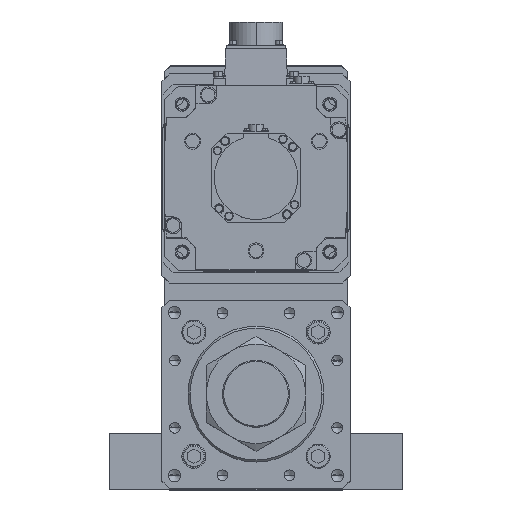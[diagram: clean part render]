
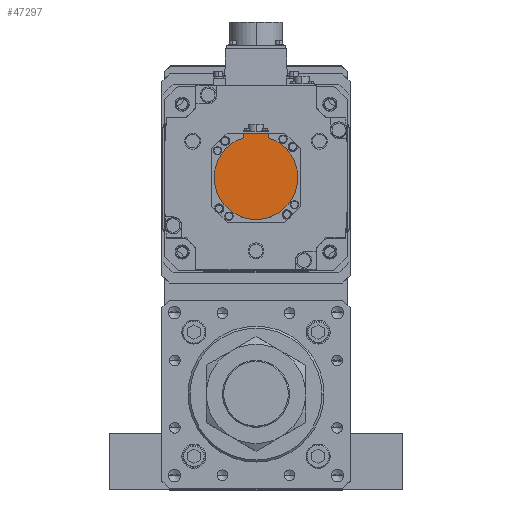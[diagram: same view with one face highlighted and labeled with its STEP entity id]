
A CAD part, top view. The second image highlights one B-rep face of the part: STEP entity #47297.
In plain terms, the highlighted planar face has unit normal (0, 0, 1) as drawn and (0, 0, -1) by its records, which use the part's own axes.
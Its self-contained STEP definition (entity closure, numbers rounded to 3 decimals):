
#8 = VERTEX_POINT ( 'NONE', #6481 ) ;
#1553 = CARTESIAN_POINT ( 'NONE',  ( -12., -38.158, -268. ) ) ;
#2104 = ORIENTED_EDGE ( 'NONE', *, *, #23369, .F. ) ;
#2529 = LINE ( 'NONE', #38866, #45585 ) ;
#3108 = EDGE_CURVE ( 'NONE', #36613, #9505, #48503, .T. ) ;
#3119 = DIRECTION ( 'NONE',  ( 1., 0., 0. ) ) ;
#3715 = CARTESIAN_POINT ( 'NONE',  ( 0., -1.25, -268. ) ) ;
#5125 = AXIS2_PLACEMENT_3D ( 'NONE', #32333, #5987, #14842 ) ;
#5987 = DIRECTION ( 'NONE',  ( 0., 0., 1. ) ) ;
#6481 = CARTESIAN_POINT ( 'NONE',  ( -40., 0., -268. ) ) ;
#9254 = EDGE_CURVE ( 'NONE', #9505, #35680, #27136, .T. ) ;
#9290 = ORIENTED_EDGE ( 'NONE', *, *, #9254, .F. ) ;
#9505 = VERTEX_POINT ( 'NONE', #52372 ) ;
#10354 = CARTESIAN_POINT ( 'NONE',  ( 12., -42.5, -268. ) ) ;
#12210 = VECTOR ( 'NONE', #24344, 1000. ) ;
#14842 = DIRECTION ( 'NONE',  ( 1., 0., 0. ) ) ;
#15132 = DIRECTION ( 'NONE',  ( 1., 0., 0. ) ) ;
#15213 = ORIENTED_EDGE ( 'NONE', *, *, #3108, .F. ) ;
#16942 = EDGE_CURVE ( 'NONE', #36613, #39803, #2529, .T. ) ;
#17086 = PLANE ( 'NONE',  #42921 ) ;
#17186 = ORIENTED_EDGE ( 'NONE', *, *, #19399, .T. ) ;
#17822 = CARTESIAN_POINT ( 'NONE',  ( -12., -40.329, -268. ) ) ;
#18011 = DIRECTION ( 'NONE',  ( 0., 1., 0. ) ) ;
#18717 = CARTESIAN_POINT ( 'NONE',  ( 0., 0., -268. ) ) ;
#19399 = EDGE_CURVE ( 'NONE', #39803, #28680, #50710, .T. ) ;
#21433 = DIRECTION ( 'NONE',  ( 0., 0., 1. ) ) ;
#21815 = EDGE_CURVE ( 'NONE', #8, #28680, #52652, .T. ) ;
#21928 = DIRECTION ( 'NONE',  ( -1., 0., 0. ) ) ;
#23369 = EDGE_CURVE ( 'NONE', #35680, #8, #44499, .T. ) ;
#24344 = DIRECTION ( 'NONE',  ( 0., 1., 0. ) ) ;
#27136 = CIRCLE ( 'NONE', #37072, 40. ) ;
#28680 = VERTEX_POINT ( 'NONE', #1553 ) ;
#28957 = CARTESIAN_POINT ( 'NONE',  ( 0., 0., -268. ) ) ;
#29447 = CARTESIAN_POINT ( 'NONE',  ( 40., 0., -268. ) ) ;
#32333 = CARTESIAN_POINT ( 'NONE',  ( 0., 0., -268. ) ) ;
#33190 = CARTESIAN_POINT ( 'NONE',  ( 12., -1.25, -268. ) ) ;
#35680 = VERTEX_POINT ( 'NONE', #29447 ) ;
#36613 = VERTEX_POINT ( 'NONE', #10354 ) ;
#36634 = VECTOR ( 'NONE', #18011, 1000. ) ;
#37072 = AXIS2_PLACEMENT_3D ( 'NONE', #28957, #45649, #3119 ) ;
#38172 = DIRECTION ( 'NONE',  ( 1., 0., 0. ) ) ;
#38866 = CARTESIAN_POINT ( 'NONE',  ( 0., -42.5, -268. ) ) ;
#39803 = VERTEX_POINT ( 'NONE', #46319 ) ;
#41081 = DIRECTION ( 'NONE',  ( 0., 0., 1. ) ) ;
#42921 = AXIS2_PLACEMENT_3D ( 'NONE', #3715, #21433, #38172 ) ;
#44499 = CIRCLE ( 'NONE', #54208, 40. ) ;
#45585 = VECTOR ( 'NONE', #21928, 1000. ) ;
#45649 = DIRECTION ( 'NONE',  ( 0., 0., 1. ) ) ;
#46189 = EDGE_LOOP ( 'NONE', ( #17186, #47551, #2104, #9290, #15213, #48088 ) ) ;
#46319 = CARTESIAN_POINT ( 'NONE',  ( -12., -42.5, -268. ) ) ;
#47297 = ADVANCED_FACE ( 'NONE', ( #52012 ), #17086, .F. ) ;
#47551 = ORIENTED_EDGE ( 'NONE', *, *, #21815, .F. ) ;
#48088 = ORIENTED_EDGE ( 'NONE', *, *, #16942, .T. ) ;
#48503 = LINE ( 'NONE', #33190, #12210 ) ;
#50710 = LINE ( 'NONE', #17822, #36634 ) ;
#52012 = FACE_OUTER_BOUND ( 'NONE', #46189, .T. ) ;
#52372 = CARTESIAN_POINT ( 'NONE',  ( 12., -38.158, -268. ) ) ;
#52652 = CIRCLE ( 'NONE', #5125, 40. ) ;
#54208 = AXIS2_PLACEMENT_3D ( 'NONE', #18717, #41081, #15132 ) ;
